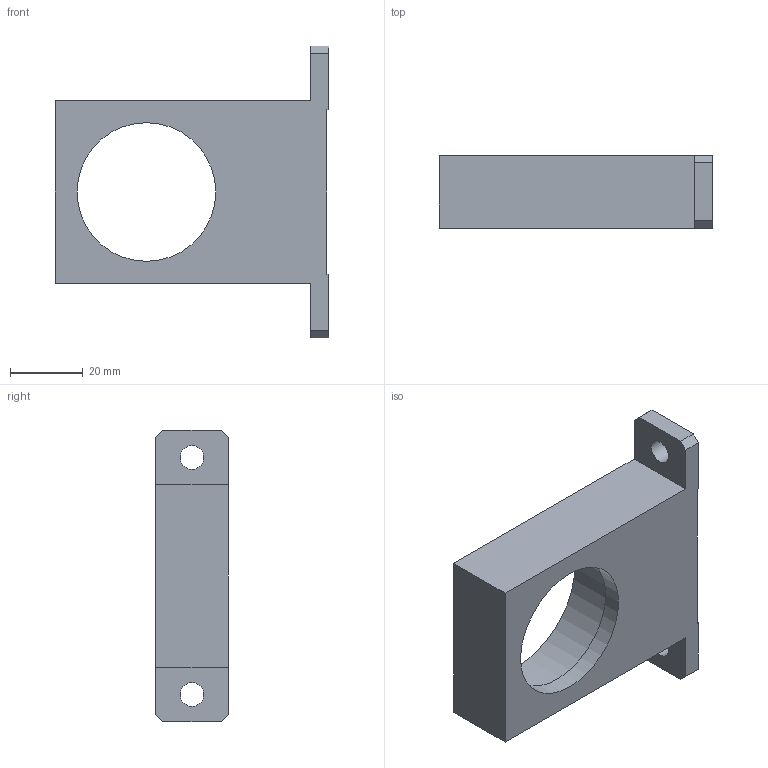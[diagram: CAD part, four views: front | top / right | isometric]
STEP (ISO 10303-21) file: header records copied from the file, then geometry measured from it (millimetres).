
FILE_DESCRIPTION(/* description */ (''),/* implementation_level */ '2;1');
FILE_NAME(/* name */ 'C:\Users\strothej\Documents\ActualDocuments\MicroscopeParts\TwoPhotonSystem\ScanningMechanics\v26\Drawings\Zeiss_75mm_Tube_Lens_Mount.stp',/* time_stamp */ '2017-05-19T16:23:31-07:00',/* author */ ('strothej'),/* organization */ (''),/* preprocessor_version */ 'ST-DEVELOPER v16.1',/* originating_system */ 'Autodesk Inventor 2016',/* authorisation */ '');
FILE_SCHEMA (('AUTOMOTIVE_DESIGN { 1 0 10303 214 3 1 1 }'));
Length unit declared in the file: millimetre
Products named in the file (1): Zeiss_75mm_Tube_Lens_Mount
Bounding box: 75 x 20 x 80 mm (x, y, z)
Volume: 48605.4 mm3; surface area: 14523.8 mm2
Topology: 1 solids, 1 shells, 30 faces, 77 edges, 52 vertices
Faces by surface type: plane 23, cylinder 7
Full cylindrical faces by diameter (mm): 3 x1, 6.5 x2, 38 x1, 44 x1
Entity records: 904 total; most frequent: CARTESIAN_POINT 151, DIRECTION 146, ORIENTED_EDGE 140, EDGE_CURVE 70, LINE 56, VECTOR 56, VERTEX_POINT 50, AXIS2_PLACEMENT_3D 45
